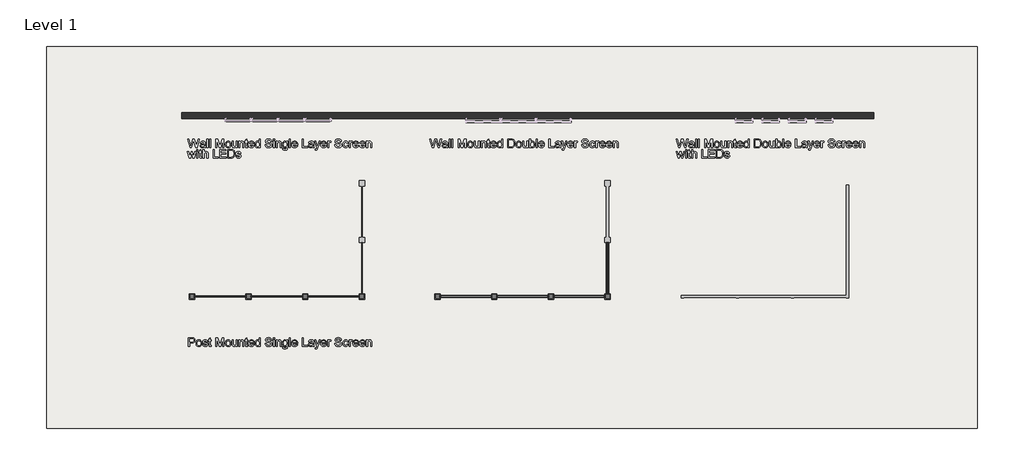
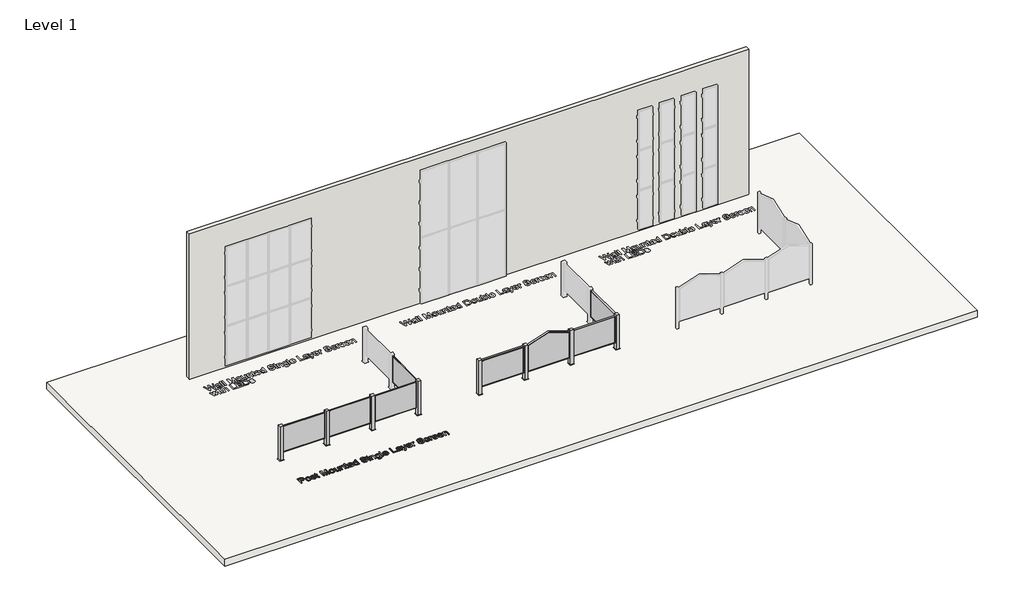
# One storey, part 1 of 4: 9 proxies, 1 slab, 1 wall.
"""IFC4 building model written with IfcOpenShell, lengths in millimetres."""

from ifc_helpers import new_model, si_unit, frame, origin, origin_with_axes, place, context, project, spatial, polyline, outline, extrude, transform, mapped, element, save
from components import post_mounted_1185a56c, proxy_0fe0f50c, proxy_dd03f605

model = new_model("IFC4")

# Units and contexts
model_context = context("Model", 3, world=origin())
ifc_project = project(units=[si_unit("LENGTHUNIT", "METRE", prefix="MILLI")], contexts=[model_context])

# Site, building, storey
site = spatial("IfcSite", under=ifc_project)
building = spatial("IfcBuilding", under=site)
storey = spatial("IfcBuildingStorey", under=building, Name="Level 1", Elevation=0.0)

# Proxies
placement = place(None, origin())
element("IfcBuildingElementProxy", 1, Name="12\" Arial", ObjectType="12\" Arial", at=placement, inside=storey, context=model_context, shape_type="SweptSolid", body=[
    extrude(outline(polyline([(-15283.1842351, -12139.8015724), (-15283.1842351, -11835.2344783), (-15170.3100044, -11835.2344783), (-15124.8033976, -11838.1344091), (-15104.5131764, -11843.5531901), (-15087.8106902, -11852.373813), (-15074.3613315, -11864.9959479), (-15063.830493, -11881.8192645), (-15057.0268091, -11901.6633425), (-15054.7589145, -11923.3477611), (-15056.2902081, -11942.0439498), (-15060.8840889, -11959.2436998), (-15068.5405569, -11974.9470111), (-15079.2596121, -11989.1538837), (-15093.9753669, -12000.9302054), (-15113.6219335, -12009.3418637), (-15138.199312, -12014.3888587), (-15167.7075024, -12016.0711904), (-15245.1133483, -12016.0711904), (-15245.1133483, -12139.8015724), (-15283.1842351, -12139.8015724)]), holes=[polyline([(-15245.1133483, -11978.0003036), (-15165.4767864, -11978.0003036), (-15131.7186172, -11974.5055152), (-15109.411457, -11964.0211499), (-15096.9752152, -11947.1978332), (-15092.8298013, -11924.6861907), (-15095.2742942, -11907.5840346), (-15102.6077732, -11893.1587376), (-15113.9193623, -11882.3025863), (-15128.298186, -11875.9078671), (-15166.3690728, -11873.305365), (-15245.1133483, -11873.305365), (-15245.1133483, -11978.0003036)])]), origin_with_axes(), (0.0, 0.0, 1.0), 25.4),
    extrude(outline(polyline([(-15016.6880278, -12027.9683425), (-15014.6292628, -11999.0015655), (-15008.4529678, -11974.0407827), (-14998.1591428, -11953.0859941), (-14983.7477878, -11936.1371996), (-14969.2388391, -11925.304285), (-14953.224157, -11917.5664888), (-14935.7037415, -11912.923811), (-14916.6775928, -11911.3762518), (-14895.6740073, -11913.2607421), (-14876.6827135, -11918.914213), (-14859.7037114, -11928.3366646), (-14844.7370011, -11941.5280967), (-14832.5215073, -11958.0423662), (-14823.7961545, -11977.43333), (-14818.5609428, -11999.7009879), (-14816.8158723, -12024.8453401), (-14819.9016961, -12063.3066021), (-14829.1591676, -12092.5847499), (-14844.3187419, -12114.5108295), (-14865.1108741, -12130.9158869), (-14889.8067594, -12141.1492966), (-14916.6775928, -12144.5604332), (-14937.9879018, -12142.6829139), (-14957.1557939, -12137.0503559), (-14974.1812692, -12127.6627593), (-14989.0643277, -12114.5201241), (-15001.1496965, -12097.8455219), (-15009.7821027, -12077.8620242), (-15014.9615465, -12054.5696311), (-15016.6880278, -12027.9683425)]), holes=[polyline([(-14978.617141, -12027.8939853), (-14974.2114769, -12062.3492532), (-14960.9944844, -12086.8964241), (-14941.1039332, -12101.5912658), (-14916.6775928, -12106.4895464), (-14892.3627882, -12101.5633819), (-14872.5094156, -12086.7848883), (-14859.2924232, -12061.9124046), (-14854.886759, -12026.7042701), (-14859.3203071, -11993.2528244), (-14872.6209514, -11969.0402609), (-14892.5022079, -11954.3454192), (-14916.6775928, -11949.4471386), (-14941.1039332, -11954.3268299), (-14960.9944844, -11968.9659037), (-14974.2114769, -11993.4573067), (-14978.617141, -12027.8939853)])]), origin_with_axes(), (0.0, 0.0, 1.0), 25.4),
    extrude(outline(polyline([(-14788.2627072, -12073.1775205), (-14750.1918204, -12068.4186597), (-14744.1874765, -12084.7028866), (-14732.5691639, -12096.6743959), (-14715.2625254, -12104.0357588), (-14692.1932039, -12106.4895464), (-14669.4027219, -12104.2402411), (-14653.3787451, -12097.4923252), (-14643.898202, -12087.7143533), (-14640.738021, -12076.3748802), (-14643.9167913, -12066.6712655), (-14653.4531023, -12059.272724), (-14692.6393471, -12048.4165727), (-14749.9687488, -12029.7900939), (-14764.4776976, -12020.4303813), (-14774.9899469, -12008.0406127), (-14781.3753715, -11993.4108335), (-14783.5038464, -11977.3310888), (-14781.7936307, -11962.5804791), (-14776.6629839, -11948.9638168), (-14768.5766383, -11937.0201914), (-14757.9993265, -11927.2886928), (-14733.7960577, -11916.0235768), (-14701.0417108, -11911.3762518), (-14676.2621736, -11913.2444765), (-14654.7171747, -11918.8491505), (-14637.391947, -11927.6418895), (-14625.2717233, -11939.0743091), (-14617.2411456, -11953.9922225), (-14612.1848559, -11973.2414428), (-14650.2557427, -11978.0003036), (-14655.0610768, -11966.0194997), (-14664.5695038, -11956.9943944), (-14678.8739703, -11951.3339525), (-14698.0674228, -11949.4471386), (-14719.9284398, -11951.2503007), (-14734.5024511, -11956.659787), (-14742.7003325, -11964.4672931), (-14745.4329596, -11973.4645144), (-14740.8971704, -11984.5437373), (-14726.694945, -11992.946101), (-14693.9034195, -12001.0510358), (-14638.0239832, -12018.9711212), (-14623.2640788, -12027.5407886), (-14612.0733201, -12039.270637), (-14605.0186807, -12054.197845), (-14602.6671343, -12072.3595913), (-14605.4276453, -12091.1347845), (-14613.7091786, -12108.7946197), (-14627.1957158, -12123.954194), (-14645.5712391, -12135.2286045), (-14667.7668635, -12142.227476), (-14692.7137043, -12144.5604332), (-14731.1006092, -12140.0618226), (-14759.1146845, -12126.5659906), (-14777.8155205, -12104.2216518), (-14788.2627072, -12073.1775205)])), origin_with_axes(), (0.0, 0.0, 1.0), 25.4),
    extrude(outline(polyline([(-14478.9367523, -12108.0510477), (-14474.1778914, -12140.9169304), (-14502.6566993, -12144.5604332), (-14520.9299814, -12142.9803427), (-14534.5559384, -12138.2400711), (-14544.1851959, -12130.9344762), (-14550.4683794, -12121.6584154), (-14553.9259892, -12105.7273851), (-14555.0785258, -12078.4568818), (-14555.0785258, -11954.2059994), (-14583.6316909, -11954.2059994), (-14583.6316909, -11916.1351126), (-14555.0785258, -11916.1351126), (-14555.0785258, -11861.7799989), (-14517.007639, -11839.3984815), (-14517.007639, -11916.1351126), (-14478.9367523, -11916.1351126), (-14478.9367523, -11954.2059994), (-14517.007639, -11954.2059994), (-14517.007639, -12077.3415238), (-14514.9999946, -12096.9718248), (-14508.4937396, -12103.924223), (-14495.518408, -12106.4895464), (-14478.9367523, -12108.0510477)])), origin_with_axes(), (0.0, 0.0, 1.0), 25.4),
    extrude(outline(polyline([(-14317.1354836, -12139.8015724), (-14317.1354836, -11835.2344783), (-14251.6267897, -11835.2344783), (-14189.3154556, -12049.9037167), (-14176.7490886, -12094.7411087), (-14163.1417209, -12046.1858567), (-14101.8713875, -11835.2344783), (-14036.3626937, -11835.2344783), (-14036.3626937, -12139.8015724), (-14074.4335805, -12139.8015724), (-14074.4335805, -11873.305365), (-14150.94714, -12139.8015724), (-14202.5510373, -12139.8015724), (-14279.0645968, -11873.305365), (-14279.0645968, -12139.8015724), (-14317.1354836, -12139.8015724)])), origin_with_axes(), (0.0, 0.0, 1.0), 25.4),
    extrude(outline(polyline([(-13984.0152244, -12027.9683425), (-13981.9564594, -11999.0015655), (-13975.7801645, -11974.0407827), (-13965.4863395, -11953.0859941), (-13951.0749845, -11936.1371996), (-13936.5660357, -11925.304285), (-13920.5513536, -11917.5664888), (-13903.0309382, -11912.923811), (-13884.0047895, -11911.3762518), (-13863.001204, -11913.2607421), (-13844.0099102, -11918.914213), (-13827.0309081, -11928.3366646), (-13812.0641978, -11941.5280967), (-13799.8487039, -11958.0423662), (-13791.1233512, -11977.43333), (-13785.8881395, -11999.7009879), (-13784.1430689, -12024.8453401), (-13787.2288928, -12063.3066021), (-13796.4863643, -12092.5847499), (-13811.6459386, -12114.5108295), (-13832.4380708, -12130.9158869), (-13857.1339561, -12141.1492966), (-13884.0047895, -12144.5604332), (-13905.3150985, -12142.6829139), (-13924.4829906, -12137.0503559), (-13941.5084659, -12127.6627593), (-13956.3915244, -12114.5201241), (-13968.4768931, -12097.8455219), (-13977.1092994, -12077.8620242), (-13982.2887432, -12054.5696311), (-13984.0152244, -12027.9683425)]), holes=[polyline([(-13945.9443377, -12027.8939853), (-13941.5386735, -12062.3492532), (-13928.3216811, -12086.8964241), (-13908.4311299, -12101.5912658), (-13884.0047895, -12106.4895464), (-13859.6899849, -12101.5633819), (-13839.8366123, -12086.7848883), (-13826.6196198, -12061.9124046), (-13822.2139557, -12026.7042701), (-13826.6475038, -11993.2528244), (-13839.9481481, -11969.0402609), (-13859.8294046, -11954.3454192), (-13884.0047895, -11949.4471386), (-13908.4311299, -11954.3268299), (-13928.3216811, -11968.9659037), (-13941.5386735, -11993.4573067), (-13945.9443377, -12027.8939853)])]), origin_with_axes(), (0.0, 0.0, 1.0), 25.4),
    extrude(outline(polyline([(-13598.547496, -12139.8015724), (-13598.547496, -12101.3588996), (-13612.3221674, -12120.2595705), (-13628.3647335, -12133.7600498), (-13646.6751942, -12141.8603374), (-13667.2535494, -12144.5604332), (-13685.7963764, -12142.6643246), (-13703.0565416, -12136.9759987), (-13717.5376064, -12128.4249206), (-13727.7431322, -12117.9405553), (-13734.6118786, -12105.2068847), (-13739.0826053, -12089.9078907), (-13741.3133213, -12054.5138632), (-13741.3133213, -11916.1351126), (-13703.2424346, -11916.1351126), (-13703.2424346, -12036.5937778), (-13700.9373614, -12075.4082365), (-13695.3884553, -12088.3556841), (-13685.8800282, -12098.1987186), (-13673.0441164, -12104.4168395), (-13657.5127562, -12106.4895464), (-13641.0891094, -12104.3703662), (-13625.7250529, -12098.0128256), (-13613.0564448, -12088.0024874), (-13604.7191437, -12074.9249147), (-13600.0904079, -12057.014124), (-13598.547496, -12032.5041317), (-13598.547496, -11916.1351126), (-13560.4766092, -11916.1351126), (-13560.4766092, -12139.8015724), (-13598.547496, -12139.8015724)])), origin_with_axes(), (0.0, 0.0, 1.0), 25.4),
    extrude(outline(polyline([(-13508.1291399, -12139.8015724), (-13508.1291399, -11916.1351126), (-13470.0582532, -11916.1351126), (-13470.0582532, -11947.3651369), (-13456.8319661, -11931.6199997), (-13440.9474091, -11920.3734731), (-13422.4045822, -11913.6255571), (-13401.2034853, -11911.3762518), (-13382.4375868, -11913.1887086), (-13365.2517788, -11918.6260789), (-13350.9194284, -11927.0098533), (-13340.7139026, -11937.6615223), (-13329.3000723, -11965.6570083), (-13327.2924278, -12002.4638227), (-13327.2924278, -12139.8015724), (-13365.3633146, -12139.8015724), (-13365.3633146, -12007.5944695), (-13369.7503894, -11973.9106576), (-13375.819796, -11963.8817301), (-13385.2538658, -11956.102108), (-13397.3462056, -11951.1108809), (-13411.3904218, -11949.4471386), (-13433.6882874, -11953.1835879), (-13452.6958468, -11964.3929359), (-13460.2918996, -11973.5435189), (-13465.7176516, -11986.0494706), (-13470.0582532, -12021.12748), (-13470.0582532, -12139.8015724), (-13508.1291399, -12139.8015724)])), origin_with_axes(), (0.0, 0.0, 1.0), 25.4),
    extrude(outline(polyline([(-13194.0443242, -12108.0510477), (-13189.2854633, -12140.9169304), (-13217.7642712, -12144.5604332), (-13236.0375533, -12142.9803427), (-13249.6635103, -12138.2400711), (-13259.2927678, -12130.9344762), (-13265.5759513, -12121.6584154), (-13269.0335611, -12105.7273851), (-13270.1860977, -12078.4568818), (-13270.1860977, -11954.2059994), (-13298.7392628, -11954.2059994), (-13298.7392628, -11916.1351126), (-13270.1860977, -11916.1351126), (-13270.1860977, -11861.7799989), (-13232.1152109, -11839.3984815), (-13232.1152109, -11916.1351126), (-13194.0443242, -11916.1351126), (-13194.0443242, -11954.2059994), (-13232.1152109, -11954.2059994), (-13232.1152109, -12077.3415238), (-13230.1075665, -12096.9718248), (-13223.6013115, -12103.924223), (-13210.6259799, -12106.4895464), (-13194.0443242, -12108.0510477)])), origin_with_axes(), (0.0, 0.0, 1.0), 25.4),
    extrude(outline(polyline([(-12999.3771728, -12073.1775205), (-12962.049858, -12077.9363814), (-12975.4992167, -12106.0619925), (-12996.9605637, -12127.086491), (-13025.9505774, -12140.1919477), (-13061.9859357, -12144.5604332), (-13085.6082889, -12142.6759429), (-13106.6560241, -12137.022472), (-13125.1291411, -12127.6000205), (-13141.0276401, -12114.4085883), (-13153.8124313, -12097.8153142), (-13162.944425, -12078.1873369), (-13168.4236212, -12055.5246563), (-13170.25002, -12029.8272725), (-13168.4050319, -12003.2585152), (-13162.8700678, -11979.8406443), (-13153.6451276, -11959.5736598), (-13140.7302113, -11942.4575617), (-13124.8735382, -11928.8594886), (-13106.8233278, -11919.1465793), (-13086.5795799, -11913.3188337), (-13064.1422946, -11911.3762518), (-13042.4276683, -11913.3141863), (-13022.7903963, -11919.12799), (-13005.2304786, -11928.8176627), (-12989.7479153, -11942.3832045), (-12977.1095148, -11959.462124), (-12968.0820859, -11979.6919299), (-12962.6656286, -12003.0726222), (-12960.8601428, -12029.6042009), (-12961.0832144, -12039.8654946), (-13132.1791332, -12039.8654946), (-13125.5892263, -12068.3628918), (-13110.2809376, -12089.3130331), (-13088.1875543, -12102.1954181), (-13061.2423637, -12106.4895464), (-13040.9800265, -12104.5004913), (-13023.915049, -12098.533326), (-13010.0474311, -12088.2162644), (-12999.3771728, -12073.1775205)]), holes=[polyline([(-13132.1791332, -12001.7946079), (-12998.9310296, -12001.7946079), (-13004.0802657, -11981.6809851), (-13014.1742557, -11967.2928667), (-13036.3698801, -11953.9085706), (-13064.291009, -11949.4471386), (-13089.9535379, -11953.0069895), (-13111.173224, -11963.6865425), (-13125.9238337, -11980.3332608), (-13132.1791332, -12001.7946079)])]), origin_with_axes(), (0.0, 0.0, 1.0), 25.4),
    extrude(outline(polyline([(-12784.7822915, -12139.8015724), (-12784.7822915, -12103.8870444), (-12796.1728852, -12121.681652), (-12809.9707933, -12134.392086), (-12826.1760157, -12142.0183464), (-12844.7885525, -12144.5604332), (-12869.4007859, -12140.8797518), (-12891.9310177, -12129.8377075), (-12911.0036397, -12112.2057562), (-12925.2430437, -12088.7553541), (-12934.1101398, -12060.4345553), (-12937.0658386, -12028.1914141), (-12934.3425061, -11996.3479429), (-12926.1725087, -11967.5902955), (-12912.5651409, -11943.5543304), (-12893.5296976, -11925.8759059), (-12870.5068493, -11915.0011653), (-12844.9372669, -11911.3762518), (-12826.3107881, -11913.9694592), (-12809.8406682, -11921.7490813), (-12795.8801037, -11933.6741174), (-12784.7822915, -11948.7035666), (-12784.7822915, -11835.2344783), (-12746.7114048, -11835.2344783), (-12746.7114048, -12139.8015724), (-12784.7822915, -12139.8015724)]), holes=[polyline([(-12898.9949518, -12028.0426997), (-12894.7008235, -12062.4793783), (-12881.8184384, -12086.9707813), (-12863.0990132, -12101.6098551), (-12841.2937641, -12106.4895464), (-12819.4978096, -12101.8329267), (-12801.2524115, -12087.8630677), (-12788.8998215, -12064.319719), (-12784.7822915, -12030.9426305), (-12788.9741787, -11994.4518343), (-12801.5498403, -11969.1517967), (-12820.2599709, -11954.3733031), (-12842.8552653, -11949.4471386), (-12864.883586, -11954.1781155), (-12882.9337965, -11968.3710461), (-12894.979663, -11992.7509133), (-12898.9949518, -12028.0426997)])]), origin_with_axes(), (0.0, 0.0, 1.0), 25.4),
    extrude(outline(polyline([(-12580.1512752, -12035.1066338), (-12542.0803884, -12035.1066338), (-12537.7119029, -12056.2333734), (-12529.8114503, -12073.2146991), (-12517.4867443, -12086.6919418), (-12499.8454985, -12097.3064322), (-12478.2819102, -12104.1937679), (-12454.1901772, -12106.4895464), (-12432.9797857, -12104.7514469), (-12414.4090748, -12099.5371482), (-12399.3610364, -12091.2834989), (-12388.718662, -12080.4273476), (-12382.3890053, -12067.9632218), (-12380.2791197, -12054.8856492), (-12381.8592102, -12042.1426839), (-12386.5994818, -12031.1285235), (-12396.2287393, -12021.7316323), (-12412.4757876, -12013.8404744), (-12467.9090807, -11999.3036416), (-12504.2976358, -11989.6836788), (-12527.5807343, -11980.5284485), (-12546.5325258, -11967.7204206), (-12559.9632952, -11952.198355), (-12567.9659889, -11934.2968589), (-12570.6335535, -11914.3505398), (-12567.3339527, -11892.0526743), (-12557.4351504, -11871.260542), (-12541.1973967, -11853.6378855), (-12518.8809418, -11840.8484469), (-12492.0937603, -11833.0688248), (-12462.4438265, -11830.4756174), (-12430.3215158, -11833.1896553), (-12402.2144939, -11841.3317687), (-12379.1265831, -11854.7346542), (-12362.0616056, -11873.2310078), (-12351.2612222, -11895.6682932), (-12346.9670938, -11920.8939735), (-12385.0379806, -11920.8939735), (-12392.0275574, -11898.1778487), (-12406.6015688, -11881.7820859), (-12429.3734615, -11871.8553996), (-12460.9566825, -11868.5465042), (-12493.2834755, -11871.818221), (-12515.4605106, -11881.6333715), (-12528.2871277, -11896.0772578), (-12532.5626668, -11913.2351818), (-12529.5326108, -11927.8649611), (-12520.442443, -11939.6319881), (-12498.953212, -11950.153532), (-12458.2798233, -11960.8981475), (-12416.3051835, -11971.1036733), (-12390.9121994, -11980.0079481), (-12369.2091915, -11993.8197981), (-12354.0682065, -12010.8661863), (-12345.1732263, -12030.9612198), (-12342.208233, -12053.9190055), (-12345.6193695, -12077.387997), (-12355.8527793, -12099.462791), (-12372.490203, -12118.4610558), (-12395.1133813, -12132.7004597), (-12422.3188221, -12141.5954398), (-12452.7030332, -12144.5604332), (-12490.002464, -12141.3630736), (-12520.7026932, -12131.7709947), (-12545.1569176, -12115.7470179), (-12563.7183339, -12093.2539647), (-12575.6340753, -12065.8533363), (-12580.1512752, -12035.1066338)])), origin_with_axes(), (0.0, 0.0, 1.0), 25.4),
    extrude(outline(polyline([(-12289.8607637, -12139.8015724), (-12289.8607637, -11916.1351126), (-12251.7898769, -11916.1351126), (-12251.7898769, -12139.8015724), (-12289.8607637, -12139.8015724)])), origin_with_axes(), (0.0, 0.0, 1.0), 25.4),
    extrude(outline(polyline([(-12289.8607637, -11873.305365), (-12289.8607637, -11835.2344783), (-12251.7898769, -11835.2344783), (-12251.7898769, -11873.305365), (-12289.8607637, -11873.305365)])), origin_with_axes(), (0.0, 0.0, 1.0), 25.4),
    extrude(outline(polyline([(-12194.6835468, -12139.8015724), (-12194.6835468, -11916.1351126), (-12156.61266, -11916.1351126), (-12156.61266, -11947.3651369), (-12143.3863729, -11931.6199997), (-12127.5018159, -11920.3734731), (-12108.958989, -11913.6255571), (-12087.7578922, -11911.3762518), (-12068.9919936, -11913.1887086), (-12051.8061856, -11918.6260789), (-12037.4738352, -11927.0098533), (-12027.2683094, -11937.6615223), (-12015.8544791, -11965.6570083), (-12013.8468347, -12002.4638227), (-12013.8468347, -12139.8015724), (-12051.9177214, -12139.8015724), (-12051.9177214, -12007.5944695), (-12056.3047963, -11973.9106576), (-12062.3742028, -11963.8817301), (-12071.8082726, -11956.102108), (-12083.9006124, -11951.1108809), (-12097.9448287, -11949.4471386), (-12120.2426942, -11953.1835879), (-12139.2502537, -11964.3929359), (-12146.8463064, -11973.5435189), (-12152.2720584, -11986.0494706), (-12156.61266, -12021.12748), (-12156.61266, -12139.8015724), (-12194.6835468, -12139.8015724)])), origin_with_axes(), (0.0, 0.0, 1.0), 25.4),
    extrude(outline(polyline([(-11971.0170871, -12158.8370157), (-11932.9462003, -12163.5958766), (-11928.7450185, -12175.4930287), (-11920.602905, -12183.6723208), (-11904.5975175, -12190.0298614), (-11883.6473762, -12192.1490416), (-11861.3030374, -12189.7510219), (-11844.6842031, -12182.5569628), (-11833.158837, -12171.0315966), (-11826.0949029, -12155.6396561), (-11823.4924009, -12111.2484073), (-11836.161009, -12123.740417), (-11850.2981717, -12132.6632811), (-11865.9038892, -12138.0169995), (-11882.9781614, -12139.8015724), (-11903.8516219, -12137.7242181), (-11922.2294688, -12131.4921552), (-11938.1117021, -12121.1053837), (-11951.4983219, -12106.5639036), (-11962.1197833, -12089.1178454), (-11969.7065414, -12070.0173395), (-11974.2585963, -12049.2623859), (-11975.7759479, -12026.8529845), (-11973.0526154, -11996.1155767), (-11964.882618, -11967.8505457), (-11951.5540898, -11943.8982325), (-11933.3551649, -11926.0989775), (-11910.908585, -11915.0569332), (-11884.8370915, -11911.3762518), (-11867.0331892, -11913.4582534), (-11850.87444, -11919.7042583), (-11836.3608439, -11930.1142664), (-11823.4924009, -11944.6882777), (-11823.4924009, -11916.1351126), (-11785.4215141, -11916.1351126), (-11785.4215141, -12109.2407629), (-11788.0240161, -12153.8271993), (-11795.8315222, -12183.188999), (-11809.2808809, -12202.6612909), (-11828.8089407, -12217.5792043), (-11853.9881478, -12227.0597474), (-11884.3909483, -12230.2199284), (-11919.8128597, -12225.767791), (-11947.7061047, -12212.4113788), (-11958.2113829, -12202.3847751), (-11965.5983061, -12190.1135133), (-11969.8668741, -12175.5975935), (-11971.0170871, -12158.8370157)]), holes=[polyline([(-11937.7050612, -12024.2504825), (-11933.6432991, -12059.1704828), (-11921.4580128, -12083.178564), (-11903.1382575, -12097.0926552), (-11880.6730882, -12101.7306856), (-11858.3752227, -12097.1205392), (-11839.9625208, -12083.2900998), (-11827.6099309, -12059.5887421), (-11823.4924009, -12025.3658405), (-11827.7307613, -11992.360538), (-11840.4458426, -11968.5941177), (-11859.1280893, -11954.2338834), (-11881.2679458, -11949.4471386), (-11903.0081324, -11954.1595262), (-11921.2349412, -11968.2966889), (-11933.5875312, -11991.7099125), (-11937.7050612, -12024.2504825)])]), origin_with_axes(), (0.0, 0.0, 1.0), 25.4),
    extrude(outline(polyline([(-11728.315184, -12139.8015724), (-11728.315184, -11835.2344783), (-11690.2442972, -11835.2344783), (-11690.2442972, -12139.8015724), (-11728.315184, -12139.8015724)])), origin_with_axes(), (0.0, 0.0, 1.0), 25.4),
    extrude(outline(polyline([(-11476.5417024, -12073.1775205), (-11439.2143877, -12077.9363814), (-11452.6637463, -12106.0619925), (-11474.1250934, -12127.086491), (-11503.115107, -12140.1919477), (-11539.1504654, -12144.5604332), (-11562.7728186, -12142.6759429), (-11583.8205537, -12137.022472), (-11602.2936708, -12127.6000205), (-11618.1921697, -12114.4085883), (-11630.9769609, -12097.8153142), (-11640.1089547, -12078.1873369), (-11645.5881509, -12055.5246563), (-11647.4145496, -12029.8272725), (-11645.5695616, -12003.2585152), (-11640.0345975, -11979.8406443), (-11630.8096572, -11959.5736598), (-11617.8947409, -11942.4575617), (-11602.0380679, -11928.8594886), (-11583.9878574, -11919.1465793), (-11563.7441095, -11913.3188337), (-11541.3068242, -11911.3762518), (-11519.592198, -11913.3141863), (-11499.954926, -11919.12799), (-11482.3950083, -11928.8176627), (-11466.9124449, -11942.3832045), (-11454.2740445, -11959.462124), (-11445.2466156, -11979.6919299), (-11439.8301582, -12003.0726222), (-11438.0246725, -12029.6042009), (-11438.2477441, -12039.8654946), (-11609.3436629, -12039.8654946), (-11602.753756, -12068.3628918), (-11587.4454673, -12089.3130331), (-11565.352084, -12102.1954181), (-11538.4068934, -12106.4895464), (-11518.1445562, -12104.5004913), (-11501.0795786, -12098.533326), (-11487.2119607, -12088.2162644), (-11476.5417024, -12073.1775205)]), holes=[polyline([(-11609.3436629, -12001.7946079), (-11476.0955592, -12001.7946079), (-11481.2447954, -11981.6809851), (-11491.3387854, -11967.2928667), (-11513.5344098, -11953.9085706), (-11541.4555386, -11949.4471386), (-11567.1180675, -11953.0069895), (-11588.3377537, -11963.6865425), (-11603.0883634, -11980.3332608), (-11609.3436629, -12001.7946079)])]), origin_with_axes(), (0.0, 0.0, 1.0), 25.4),
    extrude(outline(polyline([(-11276.2234037, -12139.8015724), (-11276.2234037, -11835.2344783), (-11238.152517, -11835.2344783), (-11238.152517, -12101.7306856), (-11085.8689699, -12101.7306856), (-11085.8689699, -12139.8015724), (-11276.2234037, -12139.8015724)])), origin_with_axes(), (0.0, 0.0, 1.0), 25.4),
    extrude(outline(polyline([(-10905.0322578, -12111.2484073), (-10923.2218881, -12126.8448301), (-10941.950608, -12137.0503559), (-10961.6459715, -12142.6829139), (-10982.7355326, -12144.5604332), (-11014.5511198, -12140.0432333), (-11038.0201113, -12126.4916334), (-11052.4918815, -12105.9132781), (-11057.3158049, -12080.3158118), (-11055.4940534, -12064.5334959), (-11050.0287992, -12050.2011455), (-11041.5985516, -12037.9322074), (-11030.88182, -12028.3401285), (-11004.2247636, -12015.8481188), (-10971.2845237, -12010.1226143), (-10932.3585291, -12004.0996811), (-10905.2553294, -11997.035747), (-10905.0322578, -11988.5590261), (-10907.6533492, -11971.5684058), (-10915.5166231, -11960.4520043), (-10933.1021011, -11952.198355), (-10957.6027987, -11949.4471386), (-10980.2817449, -11951.2781846), (-10996.1198287, -11956.7713228), (-11006.9202121, -11966.9303754), (-11014.4860573, -11982.7591645), (-11052.556944, -11978.0003036), (-11045.9484478, -11957.1802874), (-11036.0868241, -11940.8217033), (-11022.0519024, -11928.3111043), (-11002.9235126, -11919.0350435), (-10979.5288783, -11913.2909497), (-10952.6952235, -11911.3762518), (-10926.9583374, -11913.0678781), (-10906.5565804, -11918.1427571), (-10891.1739346, -11925.7736648), (-10880.4943816, -11935.1333774), (-10873.4118582, -11946.7052168), (-10868.8203011, -11960.9725047), (-10866.9613711, -11994.2845306), (-10866.9613711, -12041.6500674), (-10865.0280839, -12107.7907975), (-10857.4436494, -12139.8015724), (-10895.5145361, -12139.8015724), (-10901.6118266, -12126.5659906), (-10905.0322578, -12111.2484073)]), holes=[polyline([(-10905.0322578, -12035.1066338), (-10966.4513056, -12046.7807143), (-10999.2056525, -12052.9523619), (-11014.0399141, -12062.990584), (-11019.2449181, -12077.6389526), (-11016.4100498, -12088.9598364), (-11007.905445, -12098.2358972), (-10993.9169966, -12104.4261341), (-10974.6305977, -12106.4895464), (-10954.1823675, -12104.2123572), (-10936.1135677, -12097.3807894), (-10921.4651992, -12087.3146833), (-10911.2782627, -12075.3338793), (-10906.7610627, -12062.990584), (-10905.2553294, -12045.8884279), (-10905.0322578, -12035.1066338)])]), origin_with_axes(), (0.0, 0.0, 1.0), 25.4),
    extrude(outline(polyline([(-10814.6139018, -12225.4610676), (-10819.3727626, -12188.8029676), (-10800.0398904, -12192.1490416), (-10781.9710907, -12187.9478598), (-10770.8918678, -12176.2366007), (-10760.4818597, -12148.203936), (-10757.5075716, -12138.9836431), (-10838.408206, -11916.1351126), (-10798.2553176, -11916.1351126), (-10755.3512128, -12040.3116378), (-10740.4054155, -12089.9822479), (-10725.4596181, -12046.1114995), (-10681.3657981, -11916.1351126), (-10641.5103385, -11916.1351126), (-10719.3623277, -12145.1552908), (-10739.5874863, -12194.8259009), (-10749.9417265, -12210.6825739), (-10761.6715749, -12221.6688503), (-10775.2975319, -12228.0821589), (-10791.340098, -12230.2199284), (-10814.6139018, -12225.4610676)])), origin_with_axes(), (0.0, 0.0, 1.0), 25.4),
    extrude(outline(polyline([(-10453.3866208, -12073.1775205), (-10416.059306, -12077.9363814), (-10429.5086647, -12106.0619925), (-10450.9700118, -12127.086491), (-10479.9600254, -12140.1919477), (-10515.9953838, -12144.5604332), (-10539.617737, -12142.6759429), (-10560.6654721, -12137.022472), (-10579.1385891, -12127.6000205), (-10595.0370881, -12114.4085883), (-10607.8218793, -12097.8153142), (-10616.953873, -12078.1873369), (-10622.4330692, -12055.5246563), (-10624.259468, -12029.8272725), (-10622.4144799, -12003.2585152), (-10616.8795158, -11979.8406443), (-10607.6545756, -11959.5736598), (-10594.7396593, -11942.4575617), (-10578.8829863, -11928.8594886), (-10560.8327758, -11919.1465793), (-10540.5890279, -11913.3188337), (-10518.1517426, -11911.3762518), (-10496.4371163, -11913.3141863), (-10476.7998443, -11919.12799), (-10459.2399267, -11928.8176627), (-10443.7573633, -11942.3832045), (-10431.1189628, -11959.462124), (-10422.0915339, -11979.6919299), (-10416.6750766, -12003.0726222), (-10414.8695908, -12029.6042009), (-10415.0926624, -12039.8654946), (-10586.1885812, -12039.8654946), (-10579.5986743, -12068.3628918), (-10564.2903856, -12089.3130331), (-10542.1970024, -12102.1954181), (-10515.2518118, -12106.4895464), (-10494.9894746, -12104.5004913), (-10477.924497, -12098.533326), (-10464.0568791, -12088.2162644), (-10453.3866208, -12073.1775205)]), holes=[polyline([(-10586.1885812, -12001.7946079), (-10452.9404776, -12001.7946079), (-10458.0897137, -11981.6809851), (-10468.1837037, -11967.2928667), (-10490.3793281, -11953.9085706), (-10518.300457, -11949.4471386), (-10543.9629859, -11953.0069895), (-10565.182672, -11963.6865425), (-10579.9332817, -11980.3332608), (-10586.1885812, -12001.7946079)])]), origin_with_axes(), (0.0, 0.0, 1.0), 25.4),
    extrude(outline(polyline([(-10376.7987041, -12139.8015724), (-10376.7987041, -11916.1351126), (-10343.4866781, -11916.1351126), (-10343.4866781, -11949.224067), (-10331.1805614, -11930.0399092), (-10319.8410883, -11918.7376147), (-10308.4644366, -11913.2165925), (-10296.0467841, -11911.3762518), (-10277.0856979, -11914.3133612), (-10257.8271829, -11923.1246895), (-10270.5422643, -11957.2546446), (-10283.9265604, -11951.3990151), (-10297.3108565, -11949.4471386), (-10308.6782136, -11951.3246579), (-10318.8372661, -11956.9572158), (-10327.0444421, -11965.9172585), (-10332.5561696, -11977.777232), (-10337.1849054, -11999.0433914), (-10338.7278173, -12022.242838), (-10338.7278173, -12139.8015724), (-10376.7987041, -12139.8015724)])), origin_with_axes(), (0.0, 0.0, 1.0), 25.4),
    extrude(outline(polyline([(-10124.5790793, -12035.1066338), (-10086.5081925, -12035.1066338), (-10082.139707, -12056.2333734), (-10074.2392544, -12073.2146991), (-10061.9145484, -12086.6919418), (-10044.2733025, -12097.3064322), (-10022.7097143, -12104.1937679), (-9998.6179813, -12106.4895464), (-9977.4075898, -12104.7514469), (-9958.8368789, -12099.5371482), (-9943.7888404, -12091.2834989), (-9933.1464661, -12080.4273476), (-9926.8168094, -12067.9632218), (-9924.7069238, -12054.8856492), (-9926.2870143, -12042.1426839), (-9931.0272859, -12031.1285235), (-9940.6565433, -12021.7316323), (-9956.9035917, -12013.8404744), (-10012.3368848, -11999.3036416), (-10048.7254399, -11989.6836788), (-10072.0085384, -11980.5284485), (-10090.9603299, -11967.7204206), (-10104.3910993, -11952.198355), (-10112.393793, -11934.2968589), (-10115.0613576, -11914.3505398), (-10111.7617568, -11892.0526743), (-10101.8629545, -11871.260542), (-10085.6252008, -11853.6378855), (-10063.3087459, -11840.8484469), (-10036.5215644, -11833.0688248), (-10006.8716306, -11830.4756174), (-9974.7493199, -11833.1896553), (-9946.642298, -11841.3317687), (-9923.5543872, -11854.7346542), (-9906.4894096, -11873.2310078), (-9895.6890262, -11895.6682932), (-9891.3948979, -11920.8939735), (-9929.4657846, -11920.8939735), (-9936.4553615, -11898.1778487), (-9951.0293728, -11881.7820859), (-9973.8012656, -11871.8553996), (-10005.3844866, -11868.5465042), (-10037.7112796, -11871.818221), (-10059.8883147, -11881.6333715), (-10072.7149318, -11896.0772578), (-10076.9904708, -11913.2351818), (-10073.9604149, -11927.8649611), (-10064.8702471, -11939.6319881), (-10043.3810161, -11950.153532), (-10002.7076273, -11960.8981475), (-9960.7329875, -11971.1036733), (-9935.3400035, -11980.0079481), (-9913.6369955, -11993.8197981), (-9898.4960106, -12010.8661863), (-9889.6010304, -12030.9612198), (-9886.636037, -12053.9190055), (-9890.0471736, -12077.387997), (-9900.2805834, -12099.462791), (-9916.918007, -12118.4610558), (-9939.5411853, -12132.7004597), (-9966.7466261, -12141.5954398), (-9997.1308373, -12144.5604332), (-10034.4302681, -12141.3630736), (-10065.1304973, -12131.7709947), (-10089.5847217, -12115.7470179), (-10108.1461379, -12093.2539647), (-10120.0618793, -12065.8533363), (-10124.5790793, -12035.1066338)])), origin_with_axes(), (0.0, 0.0, 1.0), 25.4),
    extrude(outline(polyline([(-9691.5227424, -12058.900938), (-9653.4518556, -12063.6597988), (-9664.066346, -12097.5202091), (-9684.0126651, -12123.1083808), (-9711.4132936, -12139.1974201), (-9744.3907121, -12144.5604332), (-9765.742847, -12142.6898849), (-9784.8875025, -12137.0782399), (-9801.8246787, -12127.7254982), (-9816.5543754, -12114.6316599), (-9828.4770878, -12098.0430332), (-9836.9933109, -12078.2059262), (-9842.1030448, -12055.1203391), (-9843.8062894, -12028.7862717), (-9840.897064, -11994.9072721), (-9832.1693875, -11965.5454725), (-9817.4838404, -11941.8348201), (-9796.7010028, -11924.9092623), (-9771.8378138, -11914.7595044), (-9744.9112125, -11911.3762518), (-9712.7424286, -11916.0235768), (-9687.0241318, -11929.965552), (-9668.5742513, -11952.4586052), (-9658.2107165, -11982.7591645), (-9696.2816032, -11987.5180253), (-9703.1875283, -11970.9084856), (-9713.9414384, -11959.0020389), (-9727.9484761, -11951.8358636), (-9744.6137837, -11949.4471386), (-9769.2167225, -11954.1502315), (-9788.7447823, -11968.2595103), (-9801.4877476, -11992.5371364), (-9805.7354027, -12027.7452709), (-9801.5806941, -12063.4274326), (-9789.1165683, -12087.7887105), (-9769.9417052, -12101.8143374), (-9745.6547845, -12106.4895464), (-9725.9408317, -12103.5710263), (-9709.7774352, -12094.8154659), (-9698.0197028, -12079.9997937), (-9691.5227424, -12058.900938)])), origin_with_axes(), (0.0, 0.0, 1.0), 25.4),
    extrude(outline(polyline([(-9620.1398297, -12139.8015724), (-9620.1398297, -11916.1351126), (-9586.8278038, -11916.1351126), (-9586.8278038, -11949.224067), (-9574.5216871, -11930.0399092), (-9563.182214, -11918.7376147), (-9551.8055623, -11913.2165925), (-9539.3879098, -11911.3762518), (-9520.4268236, -11914.3133612), (-9501.1683086, -11923.1246895), (-9513.8833899, -11957.2546446), (-9527.2676861, -11951.3990151), (-9540.6519822, -11949.4471386), (-9552.0193392, -11951.3246579), (-9562.1783918, -11956.9572158), (-9570.3855678, -11965.9172585), (-9575.8972953, -11977.777232), (-9580.5260311, -11999.0433914), (-9582.068943, -12022.242838), (-9582.068943, -12139.8015724), (-9620.1398297, -12139.8015724)])), origin_with_axes(), (0.0, 0.0, 1.0), 25.4),
    extrude(outline(polyline([(-9320.7777397, -12073.1775205), (-9283.450425, -12077.9363814), (-9296.8997836, -12106.0619925), (-9318.3611307, -12127.086491), (-9347.3511443, -12140.1919477), (-9383.3865027, -12144.5604332), (-9407.0088559, -12142.6759429), (-9428.056591, -12137.022472), (-9446.5297081, -12127.6000205), (-9462.428207, -12114.4085883), (-9475.2129982, -12097.8153142), (-9484.344992, -12078.1873369), (-9489.8241882, -12055.5246563), (-9491.6505869, -12029.8272725), (-9489.8055989, -12003.2585152), (-9484.2706348, -11979.8406443), (-9475.0456945, -11959.5736598), (-9462.1307782, -11942.4575617), (-9446.2741052, -11928.8594886), (-9428.2238947, -11919.1465793), (-9407.9801468, -11913.3188337), (-9385.5428615, -11911.3762518), (-9363.8282353, -11913.3141863), (-9344.1909633, -11919.12799), (-9326.6310456, -11928.8176627), (-9311.1484822, -11942.3832045), (-9298.5100818, -11959.462124), (-9289.4826529, -11979.6919299), (-9284.0661955, -12003.0726222), (-9282.2607097, -12029.6042009), (-9282.4837814, -12039.8654946), (-9453.5797002, -12039.8654946), (-9446.9897932, -12068.3628918), (-9431.6815046, -12089.3130331), (-9409.5881213, -12102.1954181), (-9382.6429307, -12106.4895464), (-9362.3805935, -12104.5004913), (-9345.3156159, -12098.533326), (-9331.447998, -12088.2162644), (-9320.7777397, -12073.1775205)]), holes=[polyline([(-9453.5797002, -12001.7946079), (-9320.3315965, -12001.7946079), (-9325.4808327, -11981.6809851), (-9335.5748227, -11967.2928667), (-9357.7704471, -11953.9085706), (-9385.6915759, -11949.4471386), (-9411.3541048, -11953.0069895), (-9432.573791, -11963.6865425), (-9447.3244007, -11980.3332608), (-9453.5797002, -12001.7946079)])]), origin_with_axes(), (0.0, 0.0, 1.0), 25.4),
    extrude(outline(polyline([(-9087.5935583, -12073.1775205), (-9050.2662436, -12077.9363814), (-9063.7156022, -12106.0619925), (-9085.1769493, -12127.086491), (-9114.1669629, -12140.1919477), (-9150.2023213, -12144.5604332), (-9173.8246745, -12142.6759429), (-9194.8724096, -12137.022472), (-9213.3455267, -12127.6000205), (-9229.2440256, -12114.4085883), (-9242.0288168, -12097.8153142), (-9251.1608106, -12078.1873369), (-9256.6400068, -12055.5246563), (-9258.4664055, -12029.8272725), (-9256.6214175, -12003.2585152), (-9251.0864534, -11979.8406443), (-9241.8615131, -11959.5736598), (-9228.9465968, -11942.4575617), (-9213.0899238, -11928.8594886), (-9195.0397133, -11919.1465793), (-9174.7959654, -11913.3188337), (-9152.3586801, -11911.3762518), (-9130.6440539, -11913.3141863), (-9111.0067819, -11919.12799), (-9093.4468642, -11928.8176627), (-9077.9643008, -11942.3832045), (-9065.3259004, -11959.462124), (-9056.2984715, -11979.6919299), (-9050.8820141, -12003.0726222), (-9049.0765284, -12029.6042009), (-9049.2996, -12039.8654946), (-9220.3955188, -12039.8654946), (-9213.8056119, -12068.3628918), (-9198.4973232, -12089.3130331), (-9176.4039399, -12102.1954181), (-9149.4587493, -12106.4895464), (-9129.1964121, -12104.5004913), (-9112.1314345, -12098.533326), (-9098.2638166, -12088.2162644), (-9087.5935583, -12073.1775205)]), holes=[polyline([(-9220.3955188, -12001.7946079), (-9087.1474151, -12001.7946079), (-9092.2966513, -11981.6809851), (-9102.3906413, -11967.2928667), (-9124.5862657, -11953.9085706), (-9152.5073945, -11949.4471386), (-9178.1699234, -11953.0069895), (-9199.3896096, -11963.6865425), (-9214.1402193, -11980.3332608), (-9220.3955188, -12001.7946079)])]), origin_with_axes(), (0.0, 0.0, 1.0), 25.4),
    extrude(outline(polyline([(-9011.0056416, -12139.8015724), (-9011.0056416, -11916.1351126), (-8972.9347548, -11916.1351126), (-8972.9347548, -11947.3651369), (-8959.7084678, -11931.6199997), (-8943.8239108, -11920.3734731), (-8925.2810838, -11913.6255571), (-8904.079987, -11911.3762518), (-8885.3140885, -11913.1887086), (-8868.1282804, -11918.6260789), (-8853.79593, -11927.0098533), (-8843.5904042, -11937.6615223), (-8832.1765739, -11965.6570083), (-8830.1689295, -12002.4638227), (-8830.1689295, -12139.8015724), (-8868.2398162, -12139.8015724), (-8868.2398162, -12007.5944695), (-8872.6268911, -11973.9106576), (-8878.6962976, -11963.8817301), (-8888.1303674, -11956.102108), (-8900.2227072, -11951.1108809), (-8914.2669235, -11949.4471386), (-8936.564789, -11953.1835879), (-8955.5723485, -11964.3929359), (-8963.1684013, -11973.5435189), (-8968.5941532, -11986.0494706), (-8972.9347548, -12021.12748), (-8972.9347548, -12139.8015724), (-9011.0056416, -12139.8015724)])), origin_with_axes(), (0.0, 0.0, 1.0), 25.4),
])
post_mounted_shape = post_mounted_1185a56c(model_context)
element("IfcBuildingElementProxy", 2, Name="Post Mounted : Arch Top Double Layer 4x6 w/ LED and Graphic on 6\" Post", ObjectType="Post Mounted : Arch Top Double Layer 4x6 w/ LED and Graphic on 6\" Post", at=placement, inside=storey, context=model_context, shape_type="MappedRepresentation", body=[
    mapped(post_mounted_shape, transform((-3557.0723247, -10379.2357773, 0.0), x_axis=(1.0, 0.0, 0.0), y_axis=(0.0, 1.0, 0.0), z_axis=(0.0, 0.0, 1.0))),
])
proxy_shape = proxy_0fe0f50c(model_context)
element("IfcBuildingElementProxy", 3, Name="Post Mounted : Flat Top Double Layer 4x6 w/ LED on 6\" Post", ObjectType="Post Mounted : Flat Top Double Layer 4x6 w/ LED on 6\" Post", at=placement, inside=storey, context=model_context, shape_type="MappedRepresentation", body=[
    mapped(proxy_shape, transform((-5553.0818584, -10379.2357773, 0.0), x_axis=(1.0, 0.0, 0.0), y_axis=(0.0, 1.0, 0.0), z_axis=(0.0, 0.0, 1.0))),
])
element("IfcBuildingElementProxy", 4, Name="Post Mounted : Flat Top Double Layer 4x6 w/ LED on 6\" Post", ObjectType="Post Mounted : Flat Top Double Layer 4x6 w/ LED on 6\" Post", at=placement, inside=storey, context=model_context, shape_type="MappedRepresentation", body=[
    mapped(proxy_shape, transform((-1561.0627911, -10379.2357773, 0.0), x_axis=(1.0, 0.0, 0.0), y_axis=(0.0, 1.0, 0.0), z_axis=(0.0, 0.0, 1.0))),
])
element("IfcBuildingElementProxy", 5, Name="Post Mounted : Flat Top Double Layer 4x6 w/ LED on 6\" Post", ObjectType="Post Mounted : Flat Top Double Layer 4x6 w/ LED on 6\" Post", at=placement, inside=storey, context=model_context, shape_type="MappedRepresentation", body=[
    mapped(proxy_shape, transform((-514.5612124, -9429.7278223, 0.0), x_axis=(0.0, 1.0, 0.0), y_axis=(-1.0, 0.0, 0.0), z_axis=(0.0, 0.0, 1.0))),
])
proxy_2_shape = proxy_dd03f605(model_context)
element("IfcBuildingElementProxy", 6, Name="Post Mounted : Flat Top Single Layer 4x6 on 6\" Post", ObjectType="Post Mounted : Flat Top Single Layer 4x6 on 6\" Post", at=placement, inside=storey, context=model_context, shape_type="MappedRepresentation", body=[
    mapped(proxy_2_shape, transform((-14210.2627911, -10379.2357773, 0.0), x_axis=(1.0, 0.0, 0.0), y_axis=(0.0, 1.0, 0.0), z_axis=(0.0, 0.0, 1.0))),
])
element("IfcBuildingElementProxy", 7, Name="Post Mounted : Flat Top Single Layer 4x6 on 6\" Post", ObjectType="Post Mounted : Flat Top Single Layer 4x6 on 6\" Post", at=placement, inside=storey, context=model_context, shape_type="MappedRepresentation", body=[
    mapped(proxy_2_shape, transform((-12214.2532574, -10379.2357773, 0.0), x_axis=(1.0, 0.0, 0.0), y_axis=(0.0, 1.0, 0.0), z_axis=(0.0, 0.0, 1.0))),
])
element("IfcBuildingElementProxy", 8, Name="Post Mounted : Flat Top Single Layer 4x6 on 6\" Post", ObjectType="Post Mounted : Flat Top Single Layer 4x6 on 6\" Post", at=placement, inside=storey, context=model_context, shape_type="MappedRepresentation", body=[
    mapped(proxy_2_shape, transform((-10218.2437238, -10379.2357773, 0.0), x_axis=(1.0, 0.0, 0.0), y_axis=(0.0, 1.0, 0.0), z_axis=(0.0, 0.0, 1.0))),
])
element("IfcBuildingElementProxy", 9, Name="Post Mounted : Flat Top Single Layer 4x6 on 6\" Post", ObjectType="Post Mounted : Flat Top Single Layer 4x6 on 6\" Post", at=placement, inside=storey, context=model_context, shape_type="MappedRepresentation", body=[
    mapped(proxy_2_shape, transform((-9171.7421451, -9429.7278223, 0.0), x_axis=(0.0, 1.0, 0.0), y_axis=(-1.0, 0.0, 0.0), z_axis=(0.0, 0.0, 1.0))),
])

# Slab
element("IfcSlab", 10, ObjectType="Generic - 12\"", at=placement, inside=storey, context=model_context, shape_type="SweptSolid", body=[
    extrude(outline(polyline([(12521.2954923, -1559.6543963), (12521.2954923, -15035.3031219), (-20285.280663, -15035.3031219), (-20285.280663, -1559.6543963), (12521.2954923, -1559.6543963)])), frame((0.0, 0.0, -304.8), z_axis=(0.0, 0.0, 1.0), x_axis=(1.0, 0.0, 0.0)), (0.0, 0.0, 1.0), 304.8),
])

# Wall
element("IfcWall", 11, ObjectType="Generic - 8\"", at=placement, inside=storey, context=model_context, shape_type="SweptSolid", body=[
    extrude(outline(polyline([(8863.6954923, -4099.6543963), (-15520.3045077, -4099.6543963), (-15520.3045077, -3896.4543963), (8863.6954923, -3896.4543963), (8863.6954923, -4099.6543963)])), origin_with_axes(), (0.0, 0.0, 1.0), 6705.6),
])

save(model, "model.ifc")
